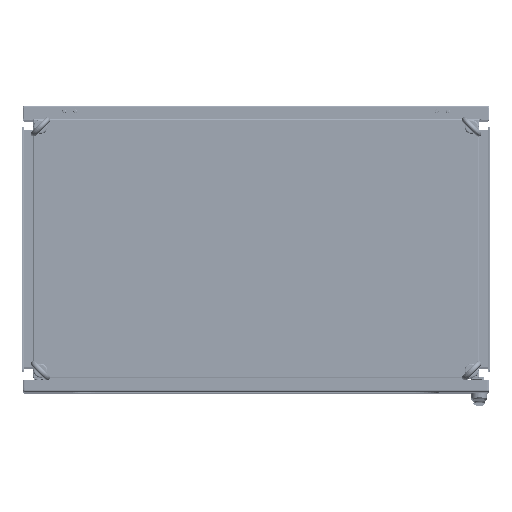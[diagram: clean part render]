
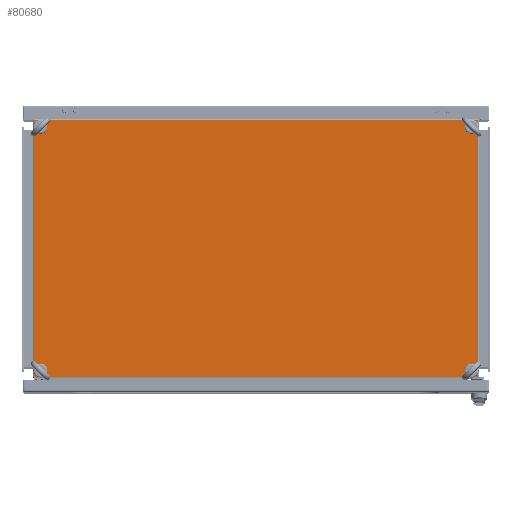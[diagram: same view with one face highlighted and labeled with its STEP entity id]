
A CAD part, top view. The second image highlights one B-rep face of the part: STEP entity #80680.
In plain terms, the highlighted planar face has unit normal (0, 0, 1).
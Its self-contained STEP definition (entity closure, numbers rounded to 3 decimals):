
#8162=LINE('',#128856,#15897);
#8163=LINE('',#128859,#15898);
#8164=LINE('',#128861,#15899);
#8165=LINE('',#128863,#15900);
#15897=VECTOR('',#104127,1000.);
#15898=VECTOR('',#104128,1000.);
#15899=VECTOR('',#104129,1000.);
#15900=VECTOR('',#104130,1000.);
#30202=ORIENTED_EDGE('',*,*,#47022,.F.);
#30203=ORIENTED_EDGE('',*,*,#47023,.F.);
#30204=ORIENTED_EDGE('',*,*,#47024,.F.);
#30205=ORIENTED_EDGE('',*,*,#47025,.F.);
#30206=ORIENTED_EDGE('',*,*,#47026,.T.);
#30207=ORIENTED_EDGE('',*,*,#47027,.F.);
#30208=ORIENTED_EDGE('',*,*,#47028,.T.);
#30209=ORIENTED_EDGE('',*,*,#47029,.T.);
#47022=EDGE_CURVE('',#56499,#56499,#61114,.T.);
#47023=EDGE_CURVE('',#56500,#56500,#61115,.T.);
#47024=EDGE_CURVE('',#56501,#56501,#61116,.T.);
#47025=EDGE_CURVE('',#56502,#56502,#61117,.T.);
#47026=EDGE_CURVE('',#56503,#56504,#8162,.T.);
#47027=EDGE_CURVE('',#56505,#56504,#8163,.F.);
#47028=EDGE_CURVE('',#56505,#56506,#8164,.T.);
#47029=EDGE_CURVE('',#56506,#56503,#8165,.T.);
#56499=VERTEX_POINT('',#128849);
#56500=VERTEX_POINT('',#128851);
#56501=VERTEX_POINT('',#128853);
#56502=VERTEX_POINT('',#128855);
#56503=VERTEX_POINT('',#128857);
#56504=VERTEX_POINT('',#128858);
#56505=VERTEX_POINT('',#128860);
#56506=VERTEX_POINT('',#128862);
#61114=CIRCLE('',#89391,6.5);
#61115=CIRCLE('',#89392,6.5);
#61116=CIRCLE('',#89393,6.5);
#61117=CIRCLE('',#89394,6.5);
#66339=EDGE_LOOP('',(#30202));
#66340=EDGE_LOOP('',(#30203));
#66341=EDGE_LOOP('',(#30204));
#66342=EDGE_LOOP('',(#30205));
#66343=EDGE_LOOP('',(#30206,#30207,#30208,#30209));
#72879=FACE_BOUND('',#66339,.T.);
#72880=FACE_BOUND('',#66340,.T.);
#72881=FACE_BOUND('',#66341,.T.);
#72882=FACE_BOUND('',#66342,.T.);
#72883=FACE_BOUND('',#66343,.T.);
#77509=PLANE('',#89390);
#80680=ADVANCED_FACE('',(#72879,#72880,#72881,#72882,#72883),#77509,.F.);
#89390=AXIS2_PLACEMENT_3D('',#128847,#104117,#104118);
#89391=AXIS2_PLACEMENT_3D('',#128848,#104119,#104120);
#89392=AXIS2_PLACEMENT_3D('',#128850,#104121,#104122);
#89393=AXIS2_PLACEMENT_3D('',#128852,#104123,#104124);
#89394=AXIS2_PLACEMENT_3D('',#128854,#104125,#104126);
#104117=DIRECTION('',(0.,0.,-1.));
#104118=DIRECTION('',(-1.,0.,0.));
#104119=DIRECTION('',(0.,0.,1.));
#104120=DIRECTION('',(1.,0.,0.));
#104121=DIRECTION('',(0.,0.,1.));
#104122=DIRECTION('',(1.,0.,0.));
#104123=DIRECTION('',(0.,0.,1.));
#104124=DIRECTION('',(1.,0.,0.));
#104125=DIRECTION('',(0.,0.,1.));
#104126=DIRECTION('',(1.,0.,0.));
#104127=DIRECTION('',(0.,-1.,0.));
#104128=DIRECTION('',(1.,0.,0.));
#104129=DIRECTION('',(0.,1.,0.));
#104130=DIRECTION('',(-1.,0.,0.));
#128847=CARTESIAN_POINT('',(0.,0.,0.));
#128848=CARTESIAN_POINT('',(460.5,260.5,0.));
#128849=CARTESIAN_POINT('',(467.,260.5,0.));
#128850=CARTESIAN_POINT('',(-460.5,260.5,0.));
#128851=CARTESIAN_POINT('',(-454.,260.5,0.));
#128852=CARTESIAN_POINT('',(460.5,-260.5,0.));
#128853=CARTESIAN_POINT('',(467.,-260.5,0.));
#128854=CARTESIAN_POINT('',(-460.5,-260.5,0.));
#128855=CARTESIAN_POINT('',(-454.,-260.5,0.));
#128856=CARTESIAN_POINT('',(-474.2,274.2,0.));
#128857=CARTESIAN_POINT('',(-474.2,274.2,0.));
#128858=CARTESIAN_POINT('',(-474.2,-274.2,0.));
#128859=CARTESIAN_POINT('',(474.2,-274.2,0.));
#128860=CARTESIAN_POINT('',(474.2,-274.2,0.));
#128861=CARTESIAN_POINT('',(474.2,-274.2,0.));
#128862=CARTESIAN_POINT('',(474.2,274.2,0.));
#128863=CARTESIAN_POINT('',(474.2,274.2,0.));
